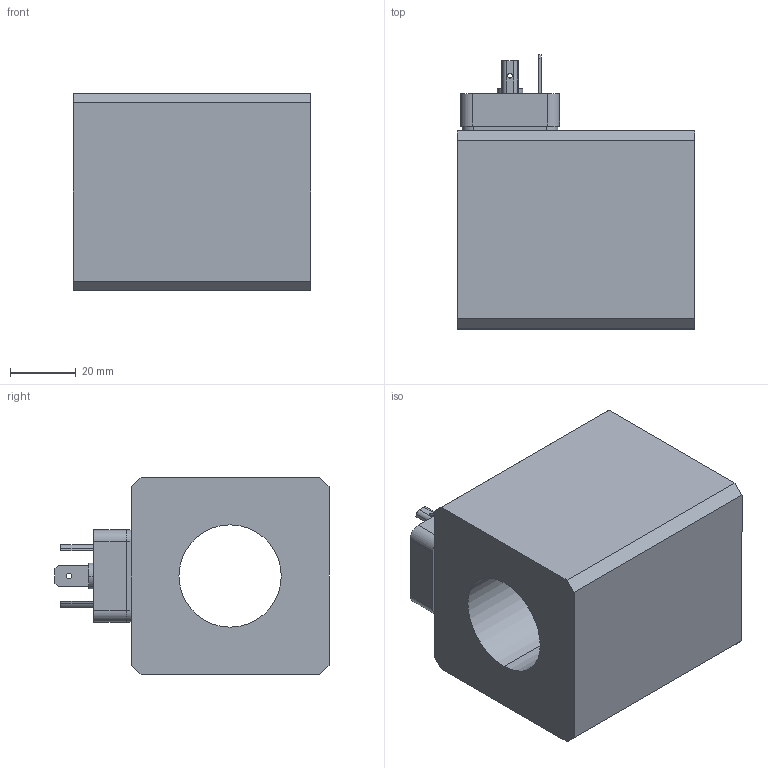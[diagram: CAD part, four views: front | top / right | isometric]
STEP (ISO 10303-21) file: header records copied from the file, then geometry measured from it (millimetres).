
FILE_DESCRIPTION (( 'STEP AP214' ), '1' );
FILE_NAME ('MDS60_31x72.STEP', '2015-07-17T07:44:17', ( '' ), ( '' ), 'SwSTEP 2.0', 'SolidWorks 2014', '' );
FILE_SCHEMA (( 'AUTOMOTIVE_DESIGN' ));
Length unit declared in the file: millimetre
Products named in the file (2): MDS60_31x72
Bounding box: 72 x 83.1 x 60 mm (x, y, z)
Volume: 219252.4 mm3; surface area: 41837.4 mm2
Topology: 13 solids, 14 shells, 331 faces, 856 edges, 564 vertices
Faces by surface type: plane 221, cylinder 92, cone 14, torus 2, bspline 2
Entity records: 13945 total; most frequent: CARTESIAN_POINT 1820, DIRECTION 1730, ORIENTED_EDGE 1708, EDGE_CURVE 854, VECTOR 614, LINE 614, VERTEX_POINT 564, AXIS2_PLACEMENT_3D 558
